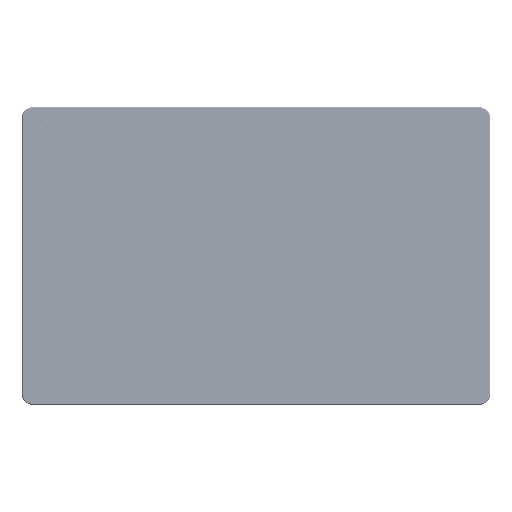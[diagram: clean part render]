
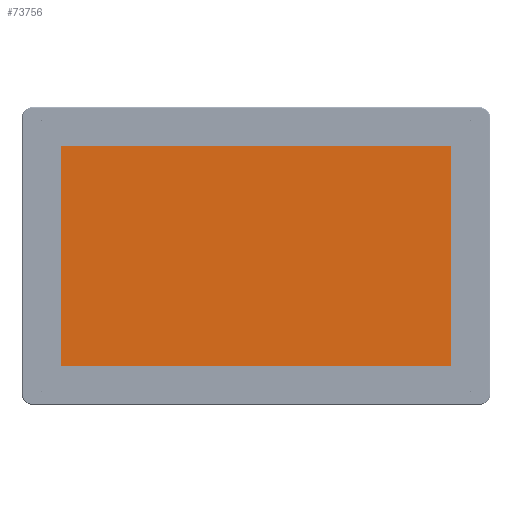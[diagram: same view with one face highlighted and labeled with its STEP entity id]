
A CAD part, top view. The second image highlights one B-rep face of the part: STEP entity #73756.
In plain terms, the highlighted planar face has unit normal (0, 0, 1).
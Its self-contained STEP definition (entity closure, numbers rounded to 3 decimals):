
#23988=PLANE('',#279456);
#41035=LINE('',#609473,#58093);
#41039=LINE('',#609482,#58097);
#41042=LINE('',#609488,#58100);
#41045=LINE('',#609494,#58103);
#58093=VECTOR('',#340527,1.);
#58097=VECTOR('',#340533,1.);
#58100=VECTOR('',#340538,1.);
#58103=VECTOR('',#340543,1.);
#73756=ADVANCED_FACE('',(#91867),#23988,.F.);
#91867=FACE_OUTER_BOUND('',#108589,.T.);
#108589=EDGE_LOOP('',(#192356,#192357,#192358,#192359));
#192356=ORIENTED_EDGE('',*,*,#253518,.F.);
#192357=ORIENTED_EDGE('',*,*,#253528,.F.);
#192358=ORIENTED_EDGE('',*,*,#253525,.F.);
#192359=ORIENTED_EDGE('',*,*,#253522,.F.);
#215527=VERTEX_POINT('',#609474);
#215528=VERTEX_POINT('',#609475);
#215531=VERTEX_POINT('',#609483);
#215533=VERTEX_POINT('',#609489);
#253518=EDGE_CURVE('',#215527,#215528,#41035,.T.);
#253522=EDGE_CURVE('',#215528,#215531,#41039,.T.);
#253525=EDGE_CURVE('',#215531,#215533,#41042,.T.);
#253528=EDGE_CURVE('',#215533,#215527,#41045,.T.);
#279456=AXIS2_PLACEMENT_3D('',#609498,#340549,#340550);
#340527=DIRECTION('',(0.,-1.,0.));
#340533=DIRECTION('',(-1.,0.,0.));
#340538=DIRECTION('',(0.,1.,0.));
#340543=DIRECTION('',(1.,0.,0.));
#340549=DIRECTION('',(0.,0.,-1.));
#340550=DIRECTION('',(-1.,0.,0.));
#609473=CARTESIAN_POINT('',(225.031,89.428,469.5));
#609474=CARTESIAN_POINT('',(225.031,91.428,469.5));
#609475=CARTESIAN_POINT('',(225.031,-127.982,469.5));
#609482=CARTESIAN_POINT('',(223.031,-127.982,469.5));
#609483=CARTESIAN_POINT('',(-161.459,-127.982,469.5));
#609488=CARTESIAN_POINT('',(-161.459,-125.982,469.5));
#609489=CARTESIAN_POINT('',(-161.459,91.428,469.5));
#609494=CARTESIAN_POINT('',(-159.459,91.428,469.5));
#609498=CARTESIAN_POINT('',(0.,0.,469.5));
